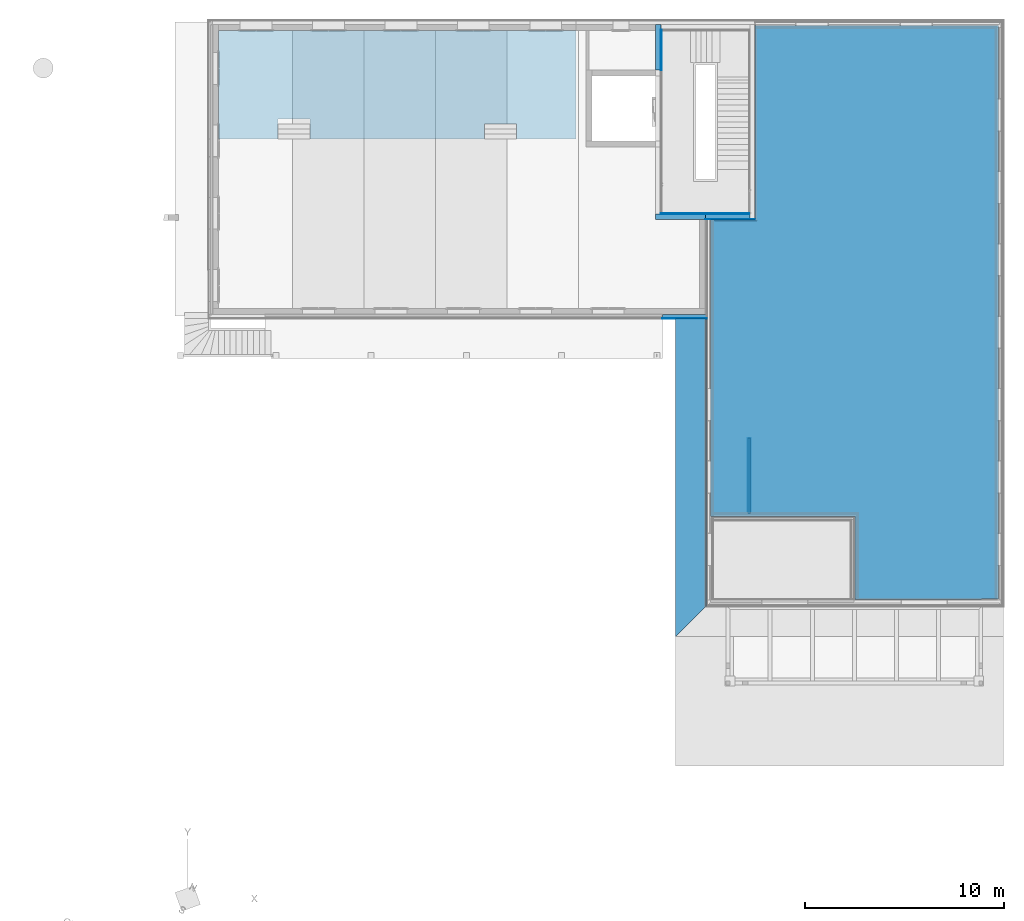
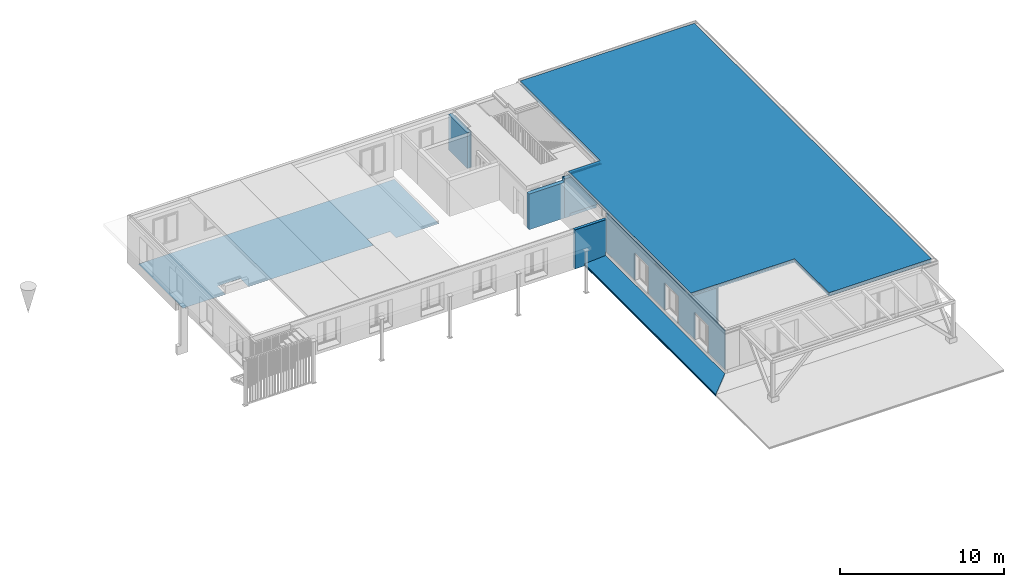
# One storey, part 13 of 20: 20 building element parts, 1 discrete accessory, 3 openings, 9 elements without a shape of their own.
"""IFC4 building model written with IfcOpenShell, lengths in millimetres."""

import ifcopenshell
import ifcopenshell.guid

model = None  # the IFC model being written
_history = None  # IfcOwnerHistory: only IFC2X3 demands one
_inside = {}  # id of a spatial element -> (the spatial element, [elements in it])
_under = {}  # id of a project, library or spatial element -> (it, [spatial elements below it])
_declared = {}  # id of a project -> (the project, [libraries it declares])
_typed = {}  # id of a type object -> (the type object, [elements of that type])
_made_of = {}  # id of a material, layer set ... -> (it, [elements and type objects made of it])


def new_model(schema):
    """Start an empty IFC model of exactly this schema.

    Asked for "IFC4X3", IfcOpenShell would pick the latest addendum, in which some entities
    have other attributes; the version numbers below select the first issue.
    IFC2X3 requires an IfcOwnerHistory on every rooted entity: one is made here for all.
    """
    global model, _history
    if schema == "IFC4X3":
        model = ifcopenshell.file(schema_version=(4, 3, 0, 0))
    else:
        model = ifcopenshell.file(schema=schema)
    _inside.clear()
    _under.clear()
    _declared.clear()
    _typed.clear()
    _made_of.clear()
    _history = None
    if model.schema == "IFC2X3":
        org = make("IfcOrganization", Name="unknown")
        user = make(
            "IfcPersonAndOrganization",
            ThePerson=make("IfcPerson", FamilyName="unknown"),
            TheOrganization=org,
        )
        app = make(
            "IfcApplication",
            ApplicationDeveloper=org,
            Version="unknown",
            ApplicationFullName="unknown",
            ApplicationIdentifier="unknown",
        )
        _history = make(
            "IfcOwnerHistory",
            OwningUser=user,
            OwningApplication=app,
            ChangeAction="ADDED",
            CreationDate=0,
        )
    return model


def make(cls, **values):
    """One entity of the class cls with the attributes given. An attribute that is None is left unset."""
    return model.create_entity(
        cls, **{name: value for name, value in values.items() if value is not None}
    )


def entity(cls, *values):
    """Any entity or typed value of the class cls, its attributes in the order of the schema. None: left unset."""
    e = model.create_entity(cls)
    for i, value in enumerate(values):
        if value is not None:
            e[i] = value
    return e


def rooted(cls, **values):
    """An entity with a GlobalId (a new one), such as an element, a storey or a relation."""
    return make(cls, GlobalId=ifcopenshell.guid.new(), OwnerHistory=_history, **values)


def si_unit(unit_type, name, prefix=None):
    """IfcSIUnit, for example si_unit("LENGTHUNIT", "METRE", prefix="MILLI")."""
    return make("IfcSIUnit", UnitType=unit_type, Prefix=prefix, Name=name)


def converted_unit(unit_type, name, factor, base, dimensions=None, offset=None):
    """IfcConversionBasedUnit, such as the inch: factor (a typed value) times the base unit."""
    return make(
        "IfcConversionBasedUnit"
        if offset is None
        else "IfcConversionBasedUnitWithOffset",
        ConversionOffset=offset,
        Dimensions=None
        if dimensions is None
        else entity("IfcDimensionalExponents", *dimensions),
        UnitType=unit_type,
        Name=name,
        ConversionFactor=make(
            "IfcMeasureWithUnit", ValueComponent=factor, UnitComponent=base
        ),
    )


def derived_unit(unit_type, elements):
    """IfcDerivedUnit: a product of units, each with its exponent."""
    return make(
        "IfcDerivedUnit",
        Elements=[
            make("IfcDerivedUnitElement", Unit=unit, Exponent=power)
            for unit, power in elements
        ],
        UnitType=unit_type,
    )


def assignment(units):
    """IfcUnitAssignment: the units of a project."""
    return None if units is None else make("IfcUnitAssignment", Units=units)


def point(xyz):
    """IfcCartesianPoint."""
    return None if xyz is None else make("IfcCartesianPoint", Coordinates=xyz)


def direction(xyz):
    """IfcDirection."""
    return None if xyz is None else make("IfcDirection", DirectionRatios=xyz)


def frame(location, z_axis=None, x_axis=None):
    """IfcAxis2Placement3D, a coordinate frame: its origin and axes. An axis left out is left unset."""
    return make(
        "IfcAxis2Placement3D",
        Location=point(location),
        Axis=direction(z_axis),
        RefDirection=direction(x_axis),
    )


def origin_with_axes():
    """The frame at (0, 0, 0) with the z axis (0, 0, 1) and the x axis (1, 0, 0) written out."""
    return frame((0.0, 0.0, 0.0), z_axis=(0.0, 0.0, 1.0), x_axis=(1.0, 0.0, 0.0))


def place(relative_to, where):
    """IfcLocalPlacement: puts the frame where relative to a parent placement (None: the world)."""
    return make(
        "IfcLocalPlacement", PlacementRelTo=relative_to, RelativePlacement=where
    )


def context(
    kind, dimensions, precision=None, world=None, true_north=None, identifier=None
):
    """IfcGeometricRepresentationContext, for example the 3D "Model" context."""
    return make(
        "IfcGeometricRepresentationContext",
        ContextIdentifier=identifier,
        ContextType=kind,
        CoordinateSpaceDimension=dimensions,
        Precision=precision,
        WorldCoordinateSystem=world,
        TrueNorth=true_north,
    )


def subcontext(parent, identifier, kind, view, scale=None):
    """IfcGeometricRepresentationSubContext, for example "Body" below "Model"."""
    return make(
        "IfcGeometricRepresentationSubContext",
        ContextIdentifier=identifier,
        ContextType=kind,
        ParentContext=parent,
        TargetScale=scale,
        TargetView=view,
    )


def project(units=None, contexts=None):
    """IfcProject with its units and contexts."""
    return rooted(
        "IfcProject",
        Name="project",
        RepresentationContexts=contexts,
        UnitsInContext=assignment(units),
    )


def spatial(cls, under=None, at=None, **own):
    """A site, building, storey or space (cls), placed at a placement, below another one or the project."""
    s = rooted(cls, ObjectPlacement=at, **own)
    if under is not None:
        _under.setdefault(under.id(), (under, []))[1].append(s)
    return s


def point_list(points):
    """IfcCartesianPointList2D or 3D."""
    cls = (
        "IfcCartesianPointList2D" if len(points[0]) == 2 else "IfcCartesianPointList3D"
    )
    return make(cls, CoordList=points)


def polygons(points, faces, closed=None, point_numbers=None):
    """IfcPolygonalFaceSet: a face is its outer loop, then its inner loops; points numbered from 1."""
    made = []
    for loops in faces:
        if len(loops) == 1:
            made.append(make("IfcIndexedPolygonalFace", CoordIndex=loops[0]))
        else:
            made.append(
                make(
                    "IfcIndexedPolygonalFaceWithVoids",
                    CoordIndex=loops[0],
                    InnerCoordIndices=loops[1:],
                )
            )
    return make(
        "IfcPolygonalFaceSet",
        Coordinates=point_list(points),
        Closed=closed,
        Faces=made,
        PnIndex=point_numbers,
    )


def shape(context_of_items, identifier, shape_type, items):
    """IfcShapeRepresentation: the items that make up one representation, for example the "Body"."""
    return make(
        "IfcShapeRepresentation",
        ContextOfItems=context_of_items,
        RepresentationIdentifier=identifier,
        RepresentationType=shape_type,
        Items=items,
    )


def material(Name=None, Category=None):
    """IfcMaterial."""
    return make("IfcMaterial", Name=Name, Category=Category)


def constituent(of_material, Name=None, Category=None, fraction=None):
    """IfcMaterialConstituent: one of the materials an element consists of."""
    return make(
        "IfcMaterialConstituent",
        Name=Name,
        Material=of_material,
        Fraction=fraction,
        Category=Category,
    )


def constituent_set(constituents=None, Name=None):
    """IfcMaterialConstituentSet."""
    return make(
        "IfcMaterialConstituentSet", Name=Name, MaterialConstituents=constituents
    )


def made_of(thing, what):
    """Note that an element or type object is made of a material, layer set ...; save() writes the relation."""
    if what is not None:
        _made_of.setdefault(what.id(), (what, []))[1].append(thing)
    return thing


def type_object(cls, material=None, **own):
    """A type object (cls), such as IfcWallType, which elements share."""
    return made_of(rooted(cls, **own), material)


def element(
    cls,
    number,
    at=None,
    inside=None,
    cuts=None,
    type_object=None,
    material=None,
    context=None,
    identifier="Body",
    shape_type=None,
    held_by="IfcProductDefinitionShape",
    body=None,
    shapes=None,
    **own,
):
    """One element of the class cls, such as IfcWall. Its Tag is "e" and its number.

    at: its placement. inside: the storey or other place that contains it. cuts: it is an
    opening in that element (IfcRelVoidsElement). A single representation is given by context,
    identifier, shape_type and body (its items); several are given by shapes. held_by: the class
    of the entity that holds the representations. save() writes the other relations.
    """
    e = rooted(cls, Tag="e%d" % number, ObjectPlacement=at, **own)
    if body is not None:
        shapes = [shape(context, identifier, shape_type, body)]
    if shapes is not None:
        e.Representation = make(held_by, Representations=shapes)
    if inside is not None:
        _inside.setdefault(inside.id(), (inside, []))[1].append(e)
    if cuts is not None:
        rooted(
            "IfcRelVoidsElement", RelatingBuildingElement=cuts, RelatedOpeningElement=e
        )
    if type_object is not None:
        _typed.setdefault(type_object.id(), (type_object, []))[1].append(e)
    return made_of(e, material)


def aggregate(whole, parts):
    """IfcRelAggregates: a whole, such as a stair, and the parts it consists of."""
    return rooted("IfcRelAggregates", RelatingObject=whole, RelatedObjects=parts)


def save(model, path):
    """Write the relations noted so far, then the file.

    IfcRelAggregates (storeys below a building ...), IfcRelContainedInSpatialStructure (elements
    in a storey), IfcRelDefinesByType, IfcRelAssociatesMaterial and IfcRelDeclares: one each for
    every whole, place, type object, material and project.
    """
    for whole, parts in _under.values():
        aggregate(whole, parts)
    for where, things in _inside.values():
        rooted(
            "IfcRelContainedInSpatialStructure",
            RelatedElements=things,
            RelatingStructure=where,
        )
    for kind, things in _typed.values():
        rooted("IfcRelDefinesByType", RelatedObjects=things, RelatingType=kind)
    for what, things in _made_of.values():
        rooted("IfcRelAssociatesMaterial", RelatedObjects=things, RelatingMaterial=what)
    for by, libraries in _declared.values():
        rooted("IfcRelDeclares", RelatingContext=by, RelatedDefinitions=libraries)
    model.write(path)


model = new_model("IFC4")

# Units and contexts
model_context = context("Model", 3, precision=0.01, world=origin_with_axes(), true_north=direction((0.0, 1.0)))
body_context = subcontext(model_context, "Body", "Model", "MODEL_VIEW")
ifc_project = project(units=[si_unit("LENGTHUNIT", "METRE", prefix="MILLI"), si_unit("AREAUNIT", "SQUARE_METRE"), si_unit("VOLUMEUNIT", "CUBIC_METRE"), converted_unit("PLANEANGLEUNIT", "DEGREE", entity("IfcPlaneAngleMeasure", 0.0174532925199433), si_unit("PLANEANGLEUNIT", "RADIAN"), dimensions=[0, 0, 0, 0, 0, 0, 0]), converted_unit("TIMEUNIT", "Year", entity("IfcTimeMeasure", 31557600.0), si_unit("TIMEUNIT", "SECOND"), dimensions=[0, 0, 1, 0, 0, 0, 0]), si_unit("MASSUNIT", "GRAM", prefix="KILO"), si_unit("THERMODYNAMICTEMPERATUREUNIT", "DEGREE_CELSIUS"), si_unit("LUMINOUSINTENSITYUNIT", "LUMEN"), si_unit("ENERGYUNIT", "JOULE", prefix="MEGA"), derived_unit("THERMALCONDUCTANCEUNIT", [(si_unit("POWERUNIT", "WATT"), 1), (si_unit("LENGTHUNIT", "METRE"), -1), (si_unit("THERMODYNAMICTEMPERATUREUNIT", "KELVIN"), -1)]), derived_unit("SPECIFICHEATCAPACITYUNIT", [(si_unit("ENERGYUNIT", "JOULE"), 1), (si_unit("MASSUNIT", "GRAM", prefix="KILO"), -1), (si_unit("THERMODYNAMICTEMPERATUREUNIT", "KELVIN"), -1)]), derived_unit("MASSDENSITYUNIT", [(si_unit("MASSUNIT", "GRAM", prefix="KILO"), 1), (si_unit("VOLUMEUNIT", "CUBIC_METRE"), -1)])], contexts=[model_context])

# Site, building, storey
site_placement = place(None, origin_with_axes())
site = spatial("IfcSite", under=ifc_project, at=site_placement, Name="Gelände", CompositionType="ELEMENT")
building_placement = place(site_placement, origin_with_axes())
building = spatial("IfcBuilding", under=site, at=building_placement, Name="Gebäude", CompositionType="ELEMENT")
storey_placement = place(building_placement, frame((0.0, 0.0, 5.198845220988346e-05), z_axis=(0.0, 0.0, 1.0), x_axis=(1.0, 0.0, 0.0)))
storey = spatial("IfcBuildingStorey", under=building, at=storey_placement, Name="EG", CompositionType="ELEMENT", Elevation=0.0)

# Discrete accessory
ifc_material_1 = material(Name="Stahl")
ifc_constituent = constituent(ifc_material_1, Name="Stahl")
ifc_constituent_set = constituent_set(constituents=[ifc_constituent], Name="Träger Typ 01- L90X75X9")
discrete_accessory_type = type_object("IfcDiscreteAccessoryType", Name="Träger Typ 01- L90X75X9 75 x 90", PredefinedType="NOTDEFINED")
discrete_accessory_placement = place(storey_placement, frame((18407.99744477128, 27947.59728131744, 3161.999948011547), z_axis=(0.0, 0.0, 1.0), x_axis=(0.0, -1.0, 0.0)))
element("IfcDiscreteAccessory", 1, at=discrete_accessory_placement, inside=storey, type_object=discrete_accessory_type, material=ifc_constituent_set, Name="Unterzug-026", PredefinedType="NOTDEFINED", context=body_context, shape_type="Tessellation", body=[
    polygons([(0.0, 0.0, -8.999999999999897), (0.0, 2020.99999999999, -8.999999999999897), (74.99999999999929, 2095.99999999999, -8.999999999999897), (74.99999999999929, 0.0, -8.999999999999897), (0.0, 0.0, 80.99999999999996), (0.0, 2020.99999999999, 80.99999999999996), (9.000000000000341, 2029.99999999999, 80.99999999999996), (9.000000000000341, 2029.99999999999, 0.0), (74.99999999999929, 2095.99999999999, 0.0), (74.99999999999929, 0.0, 0.0), (9.000000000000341, 0.0, 0.0), (9.000000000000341, 0.0, 80.99999999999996)], [[[1, 2, 3, 4]], [[5, 6, 2, 1]], [[3, 2, 6, 7, 8, 9]], [[4, 3, 9, 10]], [[5, 1, 4, 10, 11, 12]], [[12, 7, 6, 5]], [[11, 8, 7, 12]], [[10, 9, 8, 11]]], closed=True),
])

# Wall, building element parts
wall_type_1 = type_object("IfcWallType", Name="Innenwand Typ 10 310", PredefinedType="NOTDEFINED")
wall_1_placement = place(storey_placement, frame((17928.99744477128, 28247.59728131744, 0.0), z_axis=(0.0, 0.0, 1.0), x_axis=(1.0, 0.0, 0.0)))
wall_1 = element("IfcWall", 2, at=wall_1_placement, inside=storey, type_object=wall_type_1, Name="Wand-014", PredefinedType="NOTDEFINED")
ifc_material_2 = material(Name="Sichtbeton")
building_element_part_1_placement = place(wall_1_placement, origin_with_axes())
building_element_part_1 = element("IfcBuildingElementPart", 3, at=building_element_part_1_placement, material=ifc_material_2, Name="Sichtbeton", PredefinedType="NOTDEFINED", context=body_context, shape_type="Tessellation", body=[
    polygons([(0.0, 0.0, 0.0), (2200.000000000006, 0.0, 0.0), (2200.000000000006, -39.99999999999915, 0.0), (0.0, -39.99999999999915, 0.0), (0.0, 0.0, 2899.999948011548), (2200.000000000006, 0.0, 2899.999948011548), (2200.000000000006, -39.99999999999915, 2899.999948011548), (0.0, -39.99999999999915, 2899.999948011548)], [[[1, 2, 3, 4]], [[5, 6, 2, 1]], [[3, 2, 6, 7]], [[4, 3, 7, 8]], [[5, 1, 4, 8]], [[8, 7, 6, 5]]], closed=True),
])
ifc_material_3 = material(Name="Beton bewehrt")
building_element_part_2_placement = place(wall_1_placement, origin_with_axes())
building_element_part_2 = element("IfcBuildingElementPart", 4, at=building_element_part_2_placement, material=ifc_material_3, Name="Beton bewehrt", PredefinedType="NOTDEFINED", context=body_context, shape_type="Tessellation", body=[
    polygons([(0.0, -300.0000000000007, 0.0), (0.0, -39.99999999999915, 0.0), (2240.000000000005, -39.99999999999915, 0.0), (2240.000000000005, -300.0000000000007, 0.0), (0.0, -300.0000000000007, 2899.999948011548), (0.0, -39.99999999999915, 2899.999948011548), (2240.000000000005, -39.99999999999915, 2899.999948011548), (2240.000000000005, -300.0000000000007, 2899.999948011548)], [[[1, 2, 3, 4]], [[5, 6, 2, 1]], [[2, 6, 7, 3]], [[8, 4, 3, 7]], [[5, 1, 4, 8]], [[6, 5, 8, 7]]], closed=True),
])
ifc_material_4 = material(Name="Kalkzementputz Aussen")
building_element_part_3_placement = place(wall_1_placement, origin_with_axes())
building_element_part_3 = element("IfcBuildingElementPart", 5, at=building_element_part_3_placement, material=ifc_material_4, Name="Kalkzementputz Aussen", PredefinedType="NOTDEFINED", context=body_context, shape_type="Tessellation", body=[
    polygons([(2500.000000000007, -309.9999999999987, 219.9999480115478), (2500.000000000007, -299.9999999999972, 219.9999480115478), (2500.000000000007, -300.0000000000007, 2899.999948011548), (2500.000000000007, -309.9999999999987, 2899.999948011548), (379.0000000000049, -299.9999999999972, 219.9999480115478), (379.0000000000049, -309.9999999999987, 219.9999480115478), (379.0000000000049, -299.9999999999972, -5.198845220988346e-05), (0.0, -300.0000000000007, 0.0), (0.0, -300.0000000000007, 2899.999948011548), (0.0, -309.9999999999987, 2899.999948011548), (0.0, -309.9999999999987, 0.0), (379.0000000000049, -309.9999999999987, -5.198845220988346e-05)], [[[1, 2, 3, 4]], [[5, 2, 1, 6]], [[5, 7, 8, 9, 3, 2]], [[3, 9, 10, 4]], [[6, 1, 4, 10, 11, 12]], [[5, 6, 12, 7]], [[7, 12, 11, 8]], [[11, 10, 9, 8]]], closed=True),
])
aggregate(wall_1, [building_element_part_1, building_element_part_2, building_element_part_3])

# Curtain wall, openings, building element part
curtain_wall_type_1 = type_object("IfcCurtainWallType", Name="Fassade Typ 02 - Vertikale Schalung 71", PredefinedType="NOTDEFINED")
curtain_wall_1_placement = place(storey_placement, frame((17928.99744477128, 22947.48446271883, 500.0), z_axis=(0.0, 0.0, 1.0), x_axis=(0.0, -1.0, 0.0)))
curtain_wall_1 = element("IfcCurtainWall", 6, at=curtain_wall_1_placement, inside=storey, type_object=curtain_wall_type_1, Name="Wand-014", PredefinedType="NOTDEFINED")
opening_1_placement = place(curtain_wall_1_placement, frame((11607.88718140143, 0.0, 10.00000000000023), z_axis=(0.0, 0.0, 1.0), x_axis=(1.0, 0.0, 0.0)))
element("IfcOpeningElement", 7, at=opening_1_placement, cuts=curtain_wall_1, Name="Fenster-004", context=body_context, identifier="Reference", shape_type="Tessellation", body=[
    polygons([(-820.9999999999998, -1.000000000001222, 2030.0), (-820.9999999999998, -1.000000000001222, 0.0), (820.9999999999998, -1.000000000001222, 0.0), (820.9999999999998, -1.000000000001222, 2030.0), (-820.9999999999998, 72.00000000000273, 2030.0), (-820.9999999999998, 72.00000000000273, 0.0), (820.9999999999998, 72.00000000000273, 0.0), (820.9999999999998, 72.00000000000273, 2030.0)], [[[1, 2, 3, 4]], [[5, 6, 2, 1]], [[6, 7, 3, 2]], [[7, 8, 4, 3]], [[8, 5, 1, 4]], [[7, 6, 5, 8]]], closed=True),
])
opening_2_placement = place(curtain_wall_1_placement, frame((7965.887181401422, 0.0, 10.00000000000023), z_axis=(0.0, 0.0, 1.0), x_axis=(1.0, 0.0, 0.0)))
element("IfcOpeningElement", 8, at=opening_2_placement, cuts=curtain_wall_1, Name="Fenster-004", context=body_context, identifier="Reference", shape_type="Tessellation", body=[
    polygons([(-820.9999999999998, -1.000000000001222, 2030.0), (-820.9999999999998, -1.000000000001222, 0.0), (820.9999999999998, -1.000000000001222, 0.0), (820.9999999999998, -1.000000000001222, 2030.0), (-820.9999999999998, 72.00000000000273, 2030.0), (-820.9999999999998, 72.00000000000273, 0.0), (820.9999999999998, 72.00000000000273, 0.0), (820.9999999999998, 72.00000000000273, 2030.0)], [[[1, 2, 3, 4]], [[5, 6, 2, 1]], [[6, 7, 3, 2]], [[7, 8, 4, 3]], [[8, 5, 1, 4]], [[7, 6, 5, 8]]], closed=True),
])
opening_3_placement = place(curtain_wall_1_placement, frame((4323.887181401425, 0.0, 10.00000000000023), z_axis=(0.0, 0.0, 1.0), x_axis=(1.0, 0.0, 0.0)))
element("IfcOpeningElement", 9, at=opening_3_placement, cuts=curtain_wall_1, Name="Fenster-004", context=body_context, identifier="Reference", shape_type="Tessellation", body=[
    polygons([(-821.0000000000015, -1.000000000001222, 2030.0), (-821.0000000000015, -1.000000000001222, 0.0), (821.0000000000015, -1.000000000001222, 0.0), (821.0000000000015, -1.000000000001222, 2030.0), (-821.0000000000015, 72.00000000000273, 2030.0), (-821.0000000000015, 72.00000000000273, 0.0), (821.0000000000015, 72.00000000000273, 0.0), (821.0000000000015, 72.00000000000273, 2030.0)], [[[1, 2, 3, 4]], [[5, 6, 2, 1]], [[6, 7, 3, 2]], [[7, 8, 4, 3]], [[8, 5, 1, 4]], [[7, 6, 5, 8]]], closed=True),
])
ifc_material_5 = material(Name="Lattenrost vertikal")
building_element_part_4_placement = place(curtain_wall_1_placement, origin_with_axes())
building_element_part_4 = element("IfcBuildingElementPart", 10, at=building_element_part_4_placement, material=ifc_material_5, Name="Lattenrost vertikal", PredefinedType="NOTDEFINED", context=body_context, shape_type="Tessellation", body=[
    polygons([(0.0, 45.99999999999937, 2725.173192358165), (0.0, 45.99999999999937, 0.0), (14453.88718140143, 45.99999999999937, 0.0), (14453.88718140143, 45.99999999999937, 2725.173192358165), (12428.88718140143, 45.99999999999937, 10.00000000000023), (10786.88718140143, 45.99999999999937, 10.00000000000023), (10786.88718140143, 45.99999999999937, 2040.0), (12428.88718140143, 45.99999999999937, 2040.0), (8786.887181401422, 45.99999999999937, 2040.0), (8786.887181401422, 45.99999999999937, 10.00000000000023), (7144.887181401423, 45.99999999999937, 10.00000000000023), (7144.887181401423, 45.99999999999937, 2040.0), (3502.887181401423, 45.99999999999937, 2040.0), (5144.887181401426, 45.99999999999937, 2040.0), (5144.887181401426, 45.99999999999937, 10.00000000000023), (3502.887181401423, 45.99999999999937, 10.00000000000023), (0.0, 71.0000000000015, 2727.641121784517), (0.0, 71.0000000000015, 0.0), (14453.88718140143, 70.99999999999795, 0.0), (14453.88718140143, 70.99999999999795, 2725.173192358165), (14428.88718140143, 71.0000000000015, 2727.641121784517), (12428.88718140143, 71.0000000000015, 10.00000000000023), (10786.88718140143, 71.0000000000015, 10.00000000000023), (10786.88718140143, 71.0000000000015, 2040.0), (12428.88718140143, 71.0000000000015, 2040.0), (8786.887181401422, 70.99999999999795, 2040.0), (8786.887181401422, 70.99999999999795, 10.00000000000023), (7144.887181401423, 70.99999999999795, 10.00000000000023), (7144.887181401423, 70.99999999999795, 2040.0), (3502.887181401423, 71.0000000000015, 2040.0), (5144.887181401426, 71.0000000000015, 2040.0), (5144.887181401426, 71.0000000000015, 10.00000000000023), (3502.887181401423, 71.0000000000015, 10.00000000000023)], [[[1, 2, 3, 4], [5, 6, 7, 8], [9, 10, 11, 12], [13, 14, 15, 16]], [[17, 18, 2, 1]], [[3, 2, 18, 19]], [[4, 3, 19, 20]], [[17, 1, 4, 21]], [[22, 23, 6, 5]], [[23, 24, 7, 6]], [[24, 25, 8, 7]], [[25, 22, 5, 8]], [[9, 26, 27, 10]], [[10, 27, 28, 11]], [[11, 28, 29, 12]], [[12, 29, 26, 9]], [[14, 13, 30, 31]], [[15, 14, 31, 32]], [[16, 15, 32, 33]], [[13, 16, 33, 30]], [[18, 17, 21, 20, 19], [22, 25, 24, 23], [28, 27, 26, 29], [30, 33, 32, 31]], [[4, 20, 21]]], closed=True),
    polygons([(14428.88718140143, 71.0000000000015, 2760.650824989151), (0.0, 71.0000000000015, 2760.650824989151), (0.0, 71.0000000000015, 2899.999948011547), (14453.88718140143, 70.99999999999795, 2899.999948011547), (14453.88718140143, 70.99999999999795, 2728.190165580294), (14431.5871825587, 70.99999999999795, 2730.48207496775), (14431.5871825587, 70.99999999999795, 2760.650824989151), (14431.5871825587, 68.29999884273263, 2760.650824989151), (0.0, 68.29999884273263, 2760.650824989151), (0.0, 68.29999884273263, 2730.48207496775), (0.0, 45.99999999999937, 2728.190165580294), (0.0, 45.99999999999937, 2899.999948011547), (14453.88718140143, 45.99999999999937, 2899.999948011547), (14453.88718140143, 45.99999999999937, 2728.190165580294), (14431.5871825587, 68.29999884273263, 2730.48207496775)], [[[1, 2, 3, 4, 5, 6, 7]], [[8, 9, 2, 1, 7]], [[10, 11, 12, 3, 2, 9]], [[13, 4, 3, 12]], [[14, 5, 4, 13]], [[14, 15, 6, 5]], [[15, 8, 7, 6]], [[10, 9, 8, 15]], [[11, 10, 15, 14]], [[11, 14, 13, 12]]], closed=True),
])
aggregate(curtain_wall_1, [building_element_part_4])

# Wall, building element parts
wall_type_2 = type_object("IfcWallType", Name="Innenwand Typ 06 300", PredefinedType="NOTDEFINED")
wall_2_placement = place(storey_placement, frame((15728.99744477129, 37437.59728131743, 0.0), z_axis=(0.0, 0.0, 1.0), x_axis=(0.0, -1.0, 0.0)))
wall_2 = element("IfcWall", 11, at=wall_2_placement, inside=storey, type_object=wall_type_2, Name="Wand-014", PredefinedType="NOTDEFINED")
building_element_part_5_placement = place(wall_2_placement, origin_with_axes())
building_element_part_5 = element("IfcBuildingElementPart", 12, at=building_element_part_5_placement, material=ifc_material_2, Name="Sichtbeton", PredefinedType="NOTDEFINED", context=body_context, shape_type="Tessellation", body=[
    polygons([(1990.000000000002, 0.0, 0.0), (1990.000000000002, -40.00000000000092, 0.0), (-39.99999999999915, -39.99999999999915, 0.0), (-39.99999999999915, 0.0, 0.0), (1990.000000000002, 0.0, 2649.999948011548), (1990.000000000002, -40.00000000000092, 2649.999948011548), (-39.99999999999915, -39.99999999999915, 2649.999948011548), (-39.99999999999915, 0.0, 2649.999948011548)], [[[1, 2, 3, 4]], [[1, 5, 6, 2]], [[2, 6, 7, 3]], [[4, 3, 7, 8]], [[5, 1, 4, 8]], [[6, 5, 8, 7]]], closed=True),
])
building_element_part_6_placement = place(wall_2_placement, origin_with_axes())
building_element_part_6 = element("IfcBuildingElementPart", 13, at=building_element_part_6_placement, material=ifc_material_3, Name="Beton bewehrt", PredefinedType="NOTDEFINED", context=body_context, shape_type="Tessellation", body=[
    polygons([(1990.000000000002, -40.00000000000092, 0.0), (1990.000000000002, -300.0000000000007, 0.0), (-299.9999999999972, -300.0000000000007, 0.0), (-299.9999999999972, -39.99999999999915, 0.0), (1990.000000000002, -40.00000000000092, 2649.999948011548), (1990.000000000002, -300.0000000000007, 2649.999948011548), (-299.9999999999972, -299.9999999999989, 2649.999948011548), (-299.9999999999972, -39.99999999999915, 2649.999948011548)], [[[1, 2, 3, 4]], [[1, 5, 6, 2]], [[2, 6, 7, 3]], [[4, 3, 7, 8]], [[5, 1, 4, 8]], [[6, 5, 8, 7]]], closed=True),
])
aggregate(wall_2, [building_element_part_5, building_element_part_6])

# Slab, building element parts
slab_type = type_object("IfcSlabType", Name="Geschossdecke Typ 01 256", PredefinedType="NOTDEFINED")
slab_placement = place(storey_placement, frame((32679.99744477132, 8834.110519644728, 3399.999948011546), z_axis=(0.0, 0.0, 1.0), x_axis=(1.0, 0.0, 0.0)))
slab = element("IfcSlab", 14, at=slab_placement, inside=storey, type_object=slab_type, Name="Deckennr.-073", PredefinedType="NOTDEFINED")
ifc_material_6 = material(Name="Grobspanplatte-OSB")
building_element_part_7_placement = place(slab_placement, origin_with_axes())
building_element_part_7 = element("IfcBuildingElementPart", 15, at=building_element_part_7_placement, material=ifc_material_6, Name="Grobspanplatte-OSB", PredefinedType="NOTDEFINED", context=body_context, shape_type="Tessellation", body=[
    polygons([(0.0, 0.0, -17.99999999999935), (0.0, 28864.48676167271, -17.99999999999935), (0.0, 28864.48676167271, 0.0), (0.0, 0.0, 0.0), (-7216.693193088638, -7.457122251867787, -17.99999999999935), (-7220.999984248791, 4160.476485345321, -17.99999999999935), (-14502.00000000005, 4167.958667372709, -17.99999999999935), (-14502.00000000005, 19113.48676167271, -17.99999999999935), (-12251.00000000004, 19113.48676167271, -17.99999999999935), (-12251.00000000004, 28864.48676167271, -17.99999999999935), (-12251.00000000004, 28864.48676167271, 0.0), (-7216.693193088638, -7.457122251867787, 0.0), (-12251.00000000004, 19113.48676167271, 0.0), (-14502.00000000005, 19113.48676167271, 0.0), (-14502.00000000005, 4167.958667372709, 0.0), (-7220.999984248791, 4160.476485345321, 0.0)], [[[1, 2, 3, 4]], [[2, 1, 5, 6, 7, 8, 9, 10]], [[2, 10, 11, 3]], [[12, 4, 3, 11, 13, 14, 15, 16]], [[5, 1, 4, 12]], [[6, 5, 12, 16]], [[7, 6, 16, 15]], [[8, 7, 15, 14]], [[9, 8, 14, 13]], [[10, 9, 13, 11]]], closed=True),
])
ifc_material_7 = material(Name="Balken Konstruktion ungedämmt")
building_element_part_8_placement = place(slab_placement, origin_with_axes())
building_element_part_8 = element("IfcBuildingElementPart", 16, at=building_element_part_8_placement, material=ifc_material_7, Name="Balken Konstruktion ungedämmt", PredefinedType="NOTDEFINED", context=body_context, shape_type="Tessellation", body=[
    polygons([(0.0, 0.0, -137.9999999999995), (0.0, 28864.48676167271, -137.9999999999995), (0.0, 28864.48676167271, -17.99999999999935), (0.0, 0.0, -17.99999999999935), (-7216.693193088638, -7.457122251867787, -137.9999999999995), (-7220.999984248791, 4160.476485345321, -137.9999999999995), (-14502.00000000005, 4167.958667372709, -137.9999999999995), (-14502.00000000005, 19113.48676167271, -137.9999999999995), (-12251.00000000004, 19113.48676167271, -137.9999999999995), (-12251.00000000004, 28864.48676167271, -137.9999999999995), (-12251.00000000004, 28864.48676167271, -17.99999999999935), (-7216.693193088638, -7.457122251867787, -17.99999999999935), (-12251.00000000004, 19113.48676167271, -17.99999999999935), (-14502.00000000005, 19113.48676167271, -17.99999999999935), (-14502.00000000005, 4167.958667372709, -17.99999999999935), (-7220.999984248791, 4160.476485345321, -17.99999999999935)], [[[1, 2, 3, 4]], [[2, 1, 5, 6, 7, 8, 9, 10]], [[2, 10, 11, 3]], [[12, 4, 3, 11, 13, 14, 15, 16]], [[5, 1, 4, 12]], [[6, 5, 12, 16]], [[7, 6, 16, 15]], [[8, 7, 15, 14]], [[9, 8, 14, 13]], [[10, 9, 13, 11]]], closed=True),
])
building_element_part_9_placement = place(slab_placement, origin_with_axes())
building_element_part_9 = element("IfcBuildingElementPart", 17, at=building_element_part_9_placement, material=ifc_material_6, Name="Grobspanplatte-OSB", PredefinedType="NOTDEFINED", context=body_context, shape_type="Tessellation", body=[
    polygons([(-12176.00000000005, 19038.48676167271, -246.9999999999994), (-12176.00000000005, 19038.48676167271, -237.9999999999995), (-12176.00000000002, 28634.4867616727, -237.9999999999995), (-12176.00000000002, 28634.4867616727, -246.9999999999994), (-14272.00000000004, 19038.48676167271, -237.9999999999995), (-14272.00000000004, 19038.48676167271, -246.9999999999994), (-14272.00000000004, 19104.48676167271, -237.9999999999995), (-14272.00000000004, 19113.48676167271, -237.9999999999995), (-14502.00000000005, 19113.48676167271, -237.9999999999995), (-14502.00000000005, 4167.958667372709, -237.9999999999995), (-7220.999984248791, 4160.476485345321, -237.9999999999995), (-7216.693193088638, -7.457122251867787, -237.9999999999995), (0.0, 0.0, -237.9999999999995), (0.0, 28864.48676167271, -237.9999999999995), (-12251.00000000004, 28864.48676167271, -237.9999999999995), (-12251.00000000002, 28634.4867616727, -237.9999999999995), (-12242.00000000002, 28634.4867616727, -237.9999999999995), (-12251.00000000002, 28634.4867616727, -246.9999999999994), (-12251.00000000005, 19113.48676167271, -246.9999999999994), (-14272.00000000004, 19113.48676167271, -246.9999999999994), (-12251.00000000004, 19113.48676167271, -255.9999999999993), (-14502.00000000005, 19113.48676167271, -255.9999999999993), (-14502.00000000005, 4167.958667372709, -255.9999999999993), (-7220.999984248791, 4160.476485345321, -255.9999999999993), (-7216.693193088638, -7.457122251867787, -255.9999999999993), (0.0, 0.0, -255.9999999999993), (0.0, 28864.48676167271, -255.9999999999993), (-12251.00000000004, 28864.48676167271, -255.9999999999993)], [[[1, 2, 3, 4]], [[5, 2, 1, 6]], [[7, 8, 9, 10, 11, 12, 13, 14, 15, 16, 17, 3, 2, 5]], [[3, 17, 16, 18, 4]], [[19, 20, 6, 1, 4, 18]], [[20, 8, 7, 5, 6]], [[20, 19, 21, 22, 9, 8]], [[10, 9, 22, 23]], [[11, 10, 23, 24]], [[12, 11, 24, 25]], [[13, 12, 25, 26]], [[14, 13, 26, 27]], [[15, 14, 27, 28]], [[18, 16, 15, 28, 21, 19]], [[28, 27, 26, 25, 24, 23, 22, 21]]], closed=True),
])
aggregate(slab, [building_element_part_7, building_element_part_8, building_element_part_9])

# Wall, building element parts
wall_3_placement = place(storey_placement, frame((15728.99744477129, 28247.59728131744, 0.0), z_axis=(0.0, 0.0, 1.0), x_axis=(1.0, 0.0, 0.0)))
wall_3 = element("IfcWall", 18, at=wall_3_placement, inside=storey, type_object=wall_type_2, Name="Wand-014", PredefinedType="NOTDEFINED")
building_element_part_10_placement = place(wall_3_placement, origin_with_axes())
building_element_part_10 = element("IfcBuildingElementPart", 19, at=building_element_part_10_placement, material=ifc_material_2, Name="Sichtbeton", PredefinedType="NOTDEFINED", context=body_context, shape_type="Tessellation", body=[
    polygons([(-39.99999999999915, 0.0, 0.0), (2199.99999999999, 0.0, 0.0), (2199.99999999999, -39.99999999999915, 0.0), (-39.99999999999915, -39.99999999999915, 0.0), (-39.99999999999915, 0.0, 2649.999948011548), (2199.99999999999, 0.0, 2649.999948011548), (2199.99999999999, -39.99999999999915, 2649.999948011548), (-39.99999999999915, -39.99999999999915, 2649.999948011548)], [[[1, 2, 3, 4]], [[5, 6, 2, 1]], [[3, 2, 6, 7]], [[4, 3, 7, 8]], [[4, 8, 5, 1]], [[8, 7, 6, 5]]], closed=True),
])
building_element_part_11_placement = place(wall_3_placement, origin_with_axes())
building_element_part_11 = element("IfcBuildingElementPart", 20, at=building_element_part_11_placement, material=ifc_material_3, Name="Beton bewehrt", PredefinedType="NOTDEFINED", context=body_context, shape_type="Tessellation", body=[
    polygons([(-300.0000000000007, -300.0000000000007, 0.0), (-300.0000000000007, -39.99999999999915, 0.0), (2199.99999999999, -39.99999999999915, 0.0), (2199.99999999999, -300.0000000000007, 0.0), (-300.0000000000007, -300.0000000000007, 2649.999948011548), (-300.0000000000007, -39.99999999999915, 2649.999948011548), (2199.99999999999, -39.99999999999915, 2649.999948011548), (2199.99999999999, -300.0000000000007, 2649.999948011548)], [[[1, 2, 3, 4]], [[2, 1, 5, 6]], [[2, 6, 7, 3]], [[8, 4, 3, 7]], [[5, 1, 4, 8]], [[6, 5, 8, 7]]], closed=True),
])
aggregate(wall_3, [building_element_part_10, building_element_part_11])

# Curtain wall, building element parts
curtain_wall_type_2 = type_object("IfcCurtainWallType", Name="Fassade Typ 01 - Kompaktfassade 210", PredefinedType="NOTDEFINED")
curtain_wall_2_placement = place(storey_placement, frame((15762.99581849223, 22947.59674077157, 0.0), z_axis=(0.0, 0.0, 1.0), x_axis=(1.0, 0.0, 0.0)))
curtain_wall_2 = element("IfcCurtainWall", 21, at=curtain_wall_2_placement, inside=storey, type_object=curtain_wall_type_2, Name="Wand-014", PredefinedType="NOTDEFINED")
ifc_material_8 = material(Name="Dämmung Aussen")
building_element_part_12_placement = place(curtain_wall_2_placement, origin_with_axes())
building_element_part_12 = element("IfcBuildingElementPart", 22, at=building_element_part_12_placement, material=ifc_material_8, Name="Dämmung Aussen", PredefinedType="NOTDEFINED", context=body_context, shape_type="Tessellation", body=[
    polygons([(2237.001626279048, 10.00000000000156, 2899.999948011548), (2237.001626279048, 10.00000000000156, 500.0000000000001), (2237.001626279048, 210.0000000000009, 500.0), (2237.001626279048, 210.0000000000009, 2899.999948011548), (2166.001626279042, 10.00000000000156, 0.0), (2166.001626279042, 10.00000000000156, 500.0), (0.0, 10.00000000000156, 2899.999948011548), (0.0, 10.00000000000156, 0.0), (2166.001626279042, 210.0000000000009, 500.0), (2166.001626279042, 210.0000000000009, 0.0), (0.0, 210.0000000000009, 0.0), (0.0, 210.0000000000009, 2899.999948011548)], [[[1, 2, 3, 4]], [[5, 6, 2, 1, 7, 8]], [[6, 9, 3, 2]], [[3, 9, 10, 11, 12, 4]], [[7, 1, 4, 12]], [[5, 10, 9, 6]], [[7, 12, 11, 8]], [[11, 10, 5, 8]]], closed=True),
])
ifc_material_9 = material(Name="Zementputz Aussen")
building_element_part_13_placement = place(curtain_wall_2_placement, origin_with_axes())
building_element_part_13 = element("IfcBuildingElementPart", 23, at=building_element_part_13_placement, material=ifc_material_9, Name="Zementputz Aussen", PredefinedType="NOTDEFINED", context=body_context, shape_type="Tessellation", body=[
    polygons([(2237.001626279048, 0.0, 500.0000000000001), (2237.001626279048, 10.00000000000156, 500.0), (2237.001626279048, 10.00000000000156, 2899.999948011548), (2237.001626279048, 0.0, 2899.999948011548), (2166.001626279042, 10.00000000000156, 500.0), (2166.001626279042, 0.0, 500.0), (2166.001626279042, 10.00000000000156, 0.0), (0.0, 10.00000000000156, 0.0), (0.0, 10.00000000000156, 2899.999948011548), (0.0, 0.0, 2899.999948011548), (0.0, 0.0, 0.0), (2166.001626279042, 0.0, 0.0)], [[[1, 2, 3, 4]], [[5, 2, 1, 6]], [[5, 7, 8, 9, 3, 2]], [[4, 3, 9, 10]], [[6, 1, 4, 10, 11, 12]], [[7, 5, 6, 12]], [[7, 12, 11, 8]], [[9, 8, 11, 10]]], closed=True),
])
aggregate(curtain_wall_2, [building_element_part_12, building_element_part_13])

# Wall, building element parts
wall_type_3 = type_object("IfcWallType", Name="Innenwand Typ 01 154", PredefinedType="NOTDEFINED")
wall_4_placement = place(storey_placement, frame((20053.50474128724, 13160.59728131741, 0.0), z_axis=(0.0, 0.0, 1.0), x_axis=(0.0, 1.0, 0.0)))
wall_4 = element("IfcWall", 24, at=wall_4_placement, inside=storey, type_object=wall_type_3, Name="Wand-014", PredefinedType="NOTDEFINED")
ifc_material_10 = material(Name="Dreischichtplatte DSP")
building_element_part_14_placement = place(wall_4_placement, origin_with_axes())
building_element_part_14 = element("IfcBuildingElementPart", 25, at=building_element_part_14_placement, material=ifc_material_10, Name="Dreischichtplatte DSP", PredefinedType="NOTDEFINED", context=body_context, shape_type="Tessellation", body=[
    polygons([(3761.05371447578, -27.00000000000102, 3143.999948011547), (3761.05371447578, 0.0, 3143.999948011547), (-9.999999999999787, 0.0, 3143.999948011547), (-9.999999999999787, -27.00000000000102, 3143.999948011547), (3761.05371447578, -27.00000000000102, 0.0), (3761.05371447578, 0.0, 0.0), (-9.999999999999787, 0.0, 0.0), (-9.999999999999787, -27.00000000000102, 0.0)], [[[1, 2, 3, 4]], [[1, 5, 6, 2]], [[2, 6, 7, 3]], [[4, 3, 7, 8]], [[5, 1, 4, 8]], [[6, 5, 8, 7]]], closed=True),
])
ifc_material_11 = material(Name="Ständer Konstruktion gedämmt")
building_element_part_15_placement = place(wall_4_placement, origin_with_axes())
building_element_part_15 = element("IfcBuildingElementPart", 26, at=building_element_part_15_placement, material=ifc_material_11, Name="Ständer Konstruktion gedämmt", PredefinedType="NOTDEFINED", context=body_context, shape_type="Tessellation", body=[
    polygons([(3761.05371447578, -126.9999999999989, 3143.999948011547), (3761.05371447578, -27.00000000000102, 3143.999948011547), (-9.999999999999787, -27.00000000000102, 3143.999948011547), (-9.999999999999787, -126.9999999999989, 3143.999948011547), (3761.05371447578, -126.9999999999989, 0.0), (3761.05371447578, -27.00000000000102, 0.0), (-9.999999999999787, -27.00000000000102, 0.0), (-9.999999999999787, -126.9999999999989, 0.0)], [[[1, 2, 3, 4]], [[1, 5, 6, 2]], [[2, 6, 7, 3]], [[4, 3, 7, 8]], [[5, 1, 4, 8]], [[6, 5, 8, 7]]], closed=True),
])
building_element_part_16_placement = place(wall_4_placement, origin_with_axes())
building_element_part_16 = element("IfcBuildingElementPart", 27, at=building_element_part_16_placement, material=ifc_material_10, Name="Dreischichtplatte DSP", PredefinedType="NOTDEFINED", context=body_context, shape_type="Tessellation", body=[
    polygons([(3761.05371447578, -153.9999999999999, 3143.999948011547), (3761.05371447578, -126.9999999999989, 3143.999948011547), (-9.999999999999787, -126.9999999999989, 3143.999948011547), (-9.999999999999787, -153.9999999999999, 3143.999948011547), (3761.05371447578, -153.9999999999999, 0.0), (3761.05371447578, -126.9999999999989, 0.0), (-9.999999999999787, -126.9999999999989, 0.0), (-9.999999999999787, -153.9999999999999, 0.0)], [[[1, 2, 3, 4]], [[1, 5, 6, 2]], [[2, 6, 7, 3]], [[4, 3, 7, 8]], [[5, 1, 4, 8]], [[6, 5, 8, 7]]], closed=True),
])
aggregate(wall_4, [building_element_part_14, building_element_part_15, building_element_part_16])

# Covering, building element part
covering_type_1 = type_object("IfcCoveringType", Name="Bodenaufbau Typ 04 220", PredefinedType="NOTDEFINED")
covering_1_placement = place(storey_placement, frame((-6561.004181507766, 37437.59715651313, -600.0), z_axis=(0.0, 0.0, 1.0), x_axis=(1.0, 0.0, 0.0)))
covering_1 = element("IfcCovering", 28, at=covering_1_placement, inside=storey, type_object=covering_type_1, Name="Decke-006", PredefinedType="NOTDEFINED")
ifc_material_12 = material(Name="Sperrschicht")
building_element_part_17_placement = place(covering_1_placement, origin_with_axes())
building_element_part_17 = element("IfcBuildingElementPart", 29, at=building_element_part_17_placement, material=ifc_material_12, Name="Sperrschicht", PredefinedType="NOTDEFINED", context=body_context, shape_type="Tessellation", body=[
    polygons([(0.0, 0.0, 0.0), (0.0, -5440.000157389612, 0.0), (0.0, -5440.000157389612, 10.00000000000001), (0.0, 0.0, 10.00000000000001), (17990.00280796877, 0.0, 0.0), (17990.00280796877, -5440.000157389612, 0.0), (14990.00293799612, -5440.000157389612, 0.0), (14990.00293799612, -4690.000157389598, 0.0), (13390.00282862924, -4690.000157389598, 0.0), (13390.00282862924, -5440.000157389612, 0.0), (4599.999979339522, -5440.000157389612, 0.0), (4599.999979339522, -4440.000290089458, 0.0), (2999.99986997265, -4440.000290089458, 0.0), (2999.99986997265, -5440.000157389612, 0.0), (2999.99986997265, -5440.000157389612, 10.00000000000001), (2999.99986997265, -4440.000290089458, 10.00000000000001), (4599.999979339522, -4440.000290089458, 10.00000000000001), (4599.999979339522, -5440.000157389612, 10.00000000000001), (13390.00282862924, -5440.000157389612, 10.00000000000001), (13390.00282862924, -4690.000157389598, 10.00000000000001), (14990.00293799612, -4690.000157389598, 10.00000000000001), (14990.00293799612, -5440.000157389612, 10.00000000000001), (17990.00280796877, -5440.000157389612, 10.00000000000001), (17990.00280796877, 0.0, 10.00000000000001)], [[[1, 2, 3, 4]], [[1, 5, 6, 7, 8, 9, 10, 11, 12, 13, 14, 2]], [[2, 14, 15, 3]], [[4, 3, 15, 16, 17, 18, 19, 20, 21, 22, 23, 24]], [[5, 1, 4, 24]], [[6, 5, 24, 23]], [[7, 6, 23, 22]], [[8, 7, 22, 21]], [[9, 8, 21, 20]], [[10, 9, 20, 19]], [[11, 10, 19, 18]], [[12, 11, 18, 17]], [[13, 12, 17, 16]], [[14, 13, 16, 15]]], closed=True),
])
aggregate(covering_1, [building_element_part_17])

# Covering, building element parts
covering_type_2 = type_object("IfcCoveringType", Name="Flachdach Typ 02 - Dacheindeckung ESH 155", PredefinedType="NOTDEFINED")
covering_2_placement = place(storey_placement, frame((16428.99744477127, 8447.597281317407, -0.1949586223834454), z_axis=(0.0, 0.0, 1.0), x_axis=(0.0, 1.0, 0.0)))
covering_2 = element("IfcCovering", 30, at=covering_2_placement, inside=storey, type_object=covering_type_2, Name="Dach-010", PredefinedType="NOTDEFINED")
ifc_material_13 = material(Name="Grünfläche")
building_element_part_18_placement = place(covering_2_placement, origin_with_axes())
building_element_part_18 = element("IfcBuildingElementPart", 31, at=building_element_part_18_placement, material=ifc_material_13, Name="Grünfläche", PredefinedType="NOTDEFINED", context=body_context, shape_type="Tessellation", body=[
    polygons([(0.0, -1500.000000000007, 255.5390211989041), (14499.99945945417, -1500.000000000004, 255.5390211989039), (14499.99945945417, 0.0, 155.3453947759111), (-1499.999999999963, 0.0, 155.3453947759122), (-1.875868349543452e-07, -1500.000000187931, 180.3718947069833), (14499.99945944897, -1500.000000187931, 180.3718947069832), (14499.99945944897, 1.020730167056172e-07, 80.17826826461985), (-1500.000000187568, 1.020659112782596e-07, 80.1782682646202)], [[[1, 2, 3, 4]], [[1, 5, 6, 2]], [[2, 6, 7, 3]], [[3, 7, 8, 4]], [[4, 8, 5, 1]], [[5, 8, 7, 6]]], closed=True),
])
building_element_part_19_placement = place(covering_2_placement, origin_with_axes())
building_element_part_19 = element("IfcBuildingElementPart", 32, at=building_element_part_19_placement, material=ifc_material_12, Name="Sperrschicht", PredefinedType="NOTDEFINED", context=body_context, shape_type="Tessellation", body=[
    polygons([(-1500.000000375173, 2.041460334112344e-07, 5.011141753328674), (-1500.00000038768, 2.109494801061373e-07, -2.754418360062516e-07), (-3.876792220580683e-07, -1500.000000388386, 100.1936261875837), (-3.751736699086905e-07, -1500.000000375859, 105.2047682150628), (14499.99945944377, 2.041460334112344e-07, 5.01114175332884), (14499.99945944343, 2.109494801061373e-07, -2.754418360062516e-07), (14499.99945944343, -1500.000000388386, 100.1936261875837), (14499.99945944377, -1500.000000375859, 105.2047682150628)], [[[1, 2, 3, 4]], [[5, 6, 2, 1]], [[2, 6, 7, 3]], [[4, 3, 7, 8]], [[4, 8, 5, 1]], [[8, 7, 6, 5]]], closed=True),
])
ifc_material_14 = material(Name="Keramik")
building_element_part_20_placement = place(covering_2_placement, origin_with_axes())
building_element_part_20 = element("IfcBuildingElementPart", 33, at=building_element_part_20_placement, material=ifc_material_14, Name="Keramik", PredefinedType="NOTDEFINED", context=body_context, shape_type="Tessellation", body=[
    polygons([(-1500.000000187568, 1.020659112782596e-07, 80.1782682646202), (-1500.000000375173, 2.041424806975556e-07, 5.011141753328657), (-3.751736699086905e-07, -1500.000000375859, 105.2047682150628), (-1.875868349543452e-07, -1500.000000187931, 180.3718947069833), (14499.99945944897, 1.020730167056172e-07, 80.17826826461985), (14499.99945944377, 2.041460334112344e-07, 5.011141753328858), (14499.99945944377, -1500.000000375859, 105.2047682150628), (14499.99945944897, -1500.000000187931, 180.3718947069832)], [[[1, 2, 3, 4]], [[5, 6, 2, 1]], [[3, 2, 6, 7]], [[4, 3, 7, 8]], [[4, 8, 5, 1]], [[8, 7, 6, 5]]], closed=True),
])
aggregate(covering_2, [building_element_part_18, building_element_part_19, building_element_part_20])

save(model, "model.ifc")
